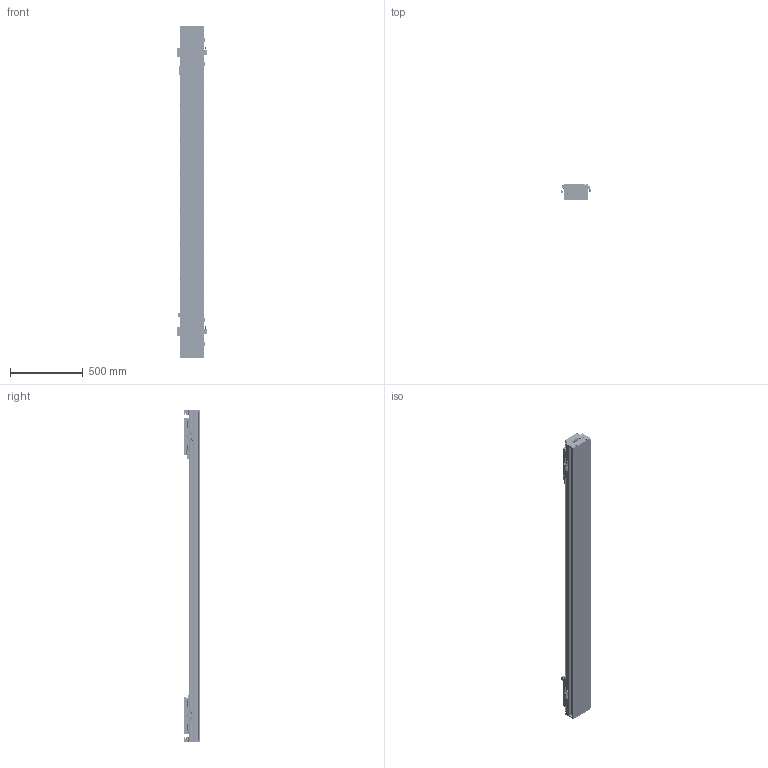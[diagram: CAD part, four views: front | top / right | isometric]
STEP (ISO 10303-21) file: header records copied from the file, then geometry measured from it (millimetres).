
FILE_DESCRIPTION (( 'STEP AP203' ), '1' );
FILE_NAME ('DKW168-2×C3-W090（T1640-L005-0.2）.STEP', '2022-03-08T05:55:31', ( '微软用户' ), ( '微软中国' ), 'SwSTEP 2.0', 'SolidWorks 2018', '' );
FILE_SCHEMA (( 'CONFIG_CONTROL_DESIGN' ));
Length unit declared in the file: millimetre
Products named in the file (28): DKW-GYP-ZJ-00 笢潔嫖萇覜茼え; RUS嫖掑喜; DKW168-HXJ-00 遣喳砎蝶; DKW168-C3-W090-HTB-04 C3-W090賑怢啣; DKW-KGZ-ZJ-00 中间光电开关支架; Ru2; 10392-0001-002-00 詩湍裔啣; MSB20S1FC; EE_SX674A; pm-y65; 10392-0001-003-00 詩湍嶺輸; CKM03-W090-C1C2-TP-0.2 珨极萇儂; DKW168-2×C3-W090（T1640-L005-0.2）; 10980-0001-003-00 嫖萇羲壽嘐隅釱; 10392-0001-004-00 詩湍揤輸; DKW168-HYB-00 賑輸揤啣; 嫖萇羲壽蚾饜极; 10279-0001-006-00 嶺輸菜輸; C3-W090; DKW-SG-GYP-H-00 嫖萇覜茼え; DKW168 单轴模组-拉钢带组件; 10392-0001-001-00 菁釱; 嫖萇羲壽蚾饜极A; CKM01-W090-TRL280; MSA20絳寢; DKW168-HXJ-ZJ-00 笢潔滅袉砎蝶; DKW168-RU-DTJ-00 RU2黍杅芛盓殤; 10279-0001-003-00 傷啣
Assembly tree (47 placements, depth 3):
  DKW168-2×C3-W090（T1640-L005-0.2）
    C3-W090  x2
      DKW168-C3-W090-HTB-04 C3-W090賑怢啣
      MSB20S1FC
      CKM03-W090-C1C2-TP-0.2 珨极萇儂
      DKW168-HYB-00 賑輸揤啣
    10392-0001-001-00 菁釱
    MSA20絳寢  x2
    DKW168 单轴模组-拉钢带组件
      10279-0001-003-00 傷啣  x2
      DKW168-HXJ-00 遣喳砎蝶  x4
      10392-0001-002-00 詩湍裔啣
      10392-0001-003-00 詩湍嶺輸  x2
      10392-0001-004-00 詩湍揤輸  x2
      10279-0001-006-00 嶺輸菜輸  x2
    CKM01-W090-TRL280
    DKW168-RU-DTJ-00 RU2黍杅芛盓殤  x2
    RUS嫖掑喜
    Ru2  x2
    嫖萇羲壽蚾饜极
      pm-y65  x2
      10980-0001-003-00 嫖萇羲壽嘐隅釱
    DKW-SG-GYP-H-00 嫖萇覜茼え  x2
    嫖萇羲壽蚾饜极A
      pm-y65  x2
      10980-0001-003-00 嫖萇羲壽嘐隅釱
    DKW168-HXJ-ZJ-00 笢潔滅袉砎蝶
    DKW-GYP-ZJ-00 笢潔嫖萇覜茼え
    DKW-KGZ-ZJ-00 中间光电开关支架
    EE_SX674A
Bounding box: 202.1 x 109 x 2280 mm (x, y, z)
Volume: 16644924.4 mm3; surface area: 4304384.1 mm2
Topology: 74 solids, 172 shells, 7864 faces, 20460 edges, 13023 vertices
Faces by surface type: plane 4094, cylinder 2296, cone 852, bspline 558, torus 32, sphere 32
Entity records: 126015 total; most frequent: CARTESIAN_POINT 41700, ORIENTED_EDGE 16857, DIRECTION 16156, EDGE_CURVE 8469, VERTEX_POINT 5522, AXIS2_PLACEMENT_3D 5495, LINE 5166, VECTOR 5166
